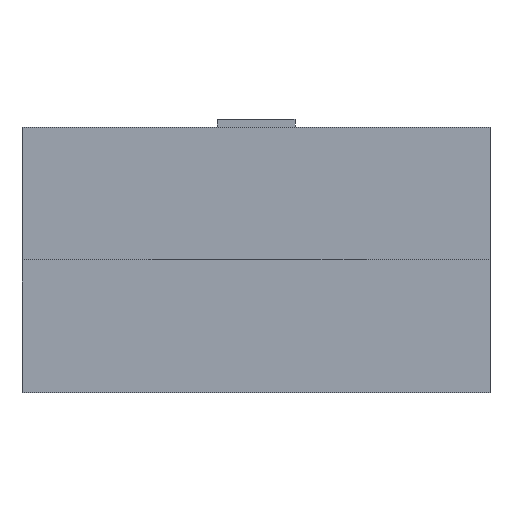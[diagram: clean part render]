
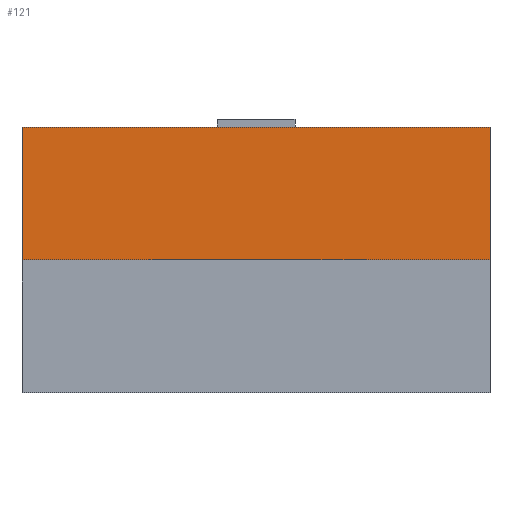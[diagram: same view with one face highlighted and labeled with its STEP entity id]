
A CAD part, front view. The second image highlights one B-rep face of the part: STEP entity #121.
In plain terms, the highlighted planar face has unit normal (0, -1, 0).
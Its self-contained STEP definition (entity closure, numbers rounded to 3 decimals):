
#121=ADVANCED_FACE('',(#260),#262,.F.);
#260=FACE_BOUND('',#261,.T.);
#261=EDGE_LOOP('',(#376,#377,#378,#379));
#262=PLANE('',#263);
#263=AXIS2_PLACEMENT_3D('',#264,#265,#266);
#264=CARTESIAN_POINT('',(3.,0.5,1.7));
#265=DIRECTION('',(0.,1.,0.));
#266=DIRECTION('',(0.,0.,-1.));
#376=ORIENTED_EDGE('',*,*,#448,.F.);
#377=ORIENTED_EDGE('',*,*,#449,.T.);
#378=ORIENTED_EDGE('',*,*,#423,.F.);
#379=ORIENTED_EDGE('',*,*,#442,.F.);
#423=EDGE_CURVE('',#467,#469,#470,.T.);
#442=EDGE_CURVE('',#500,#467,#501,.T.);
#448=EDGE_CURVE('',#511,#500,#512,.T.);
#449=EDGE_CURVE('',#511,#469,#513,.T.);
#467=VERTEX_POINT('',#541);
#469=VERTEX_POINT('',#545);
#470=LINE('',#546,#547);
#500=VERTEX_POINT('',#614);
#501=LINE('',#615,#616);
#511=VERTEX_POINT('',#637);
#512=LINE('',#638,#639);
#513=LINE('',#641,#642);
#541=CARTESIAN_POINT('',(-3.,0.5,3.4));
#545=CARTESIAN_POINT('',(3.,0.5,3.4));
#546=CARTESIAN_POINT('',(-3.,0.5,3.4));
#547=VECTOR('',#548,1.);
#548=DIRECTION('',(1.,0.,0.));
#614=CARTESIAN_POINT('',(-3.,0.5,1.2));
#615=CARTESIAN_POINT('',(-3.,0.5,1.2));
#616=VECTOR('',#617,1.);
#617=DIRECTION('',(0.,0.,1.));
#637=CARTESIAN_POINT('',(3.,0.5,1.2));
#638=CARTESIAN_POINT('',(3.,0.5,1.2));
#639=VECTOR('',#640,1.);
#640=DIRECTION('',(-1.,0.,0.));
#641=CARTESIAN_POINT('',(3.,0.5,1.2));
#642=VECTOR('',#643,1.);
#643=DIRECTION('',(0.,0.,1.));
